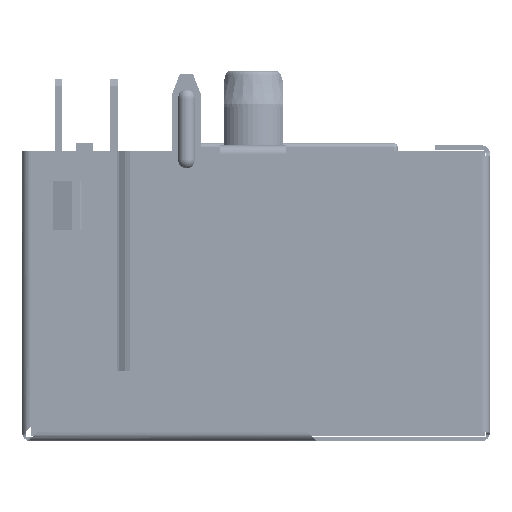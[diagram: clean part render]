
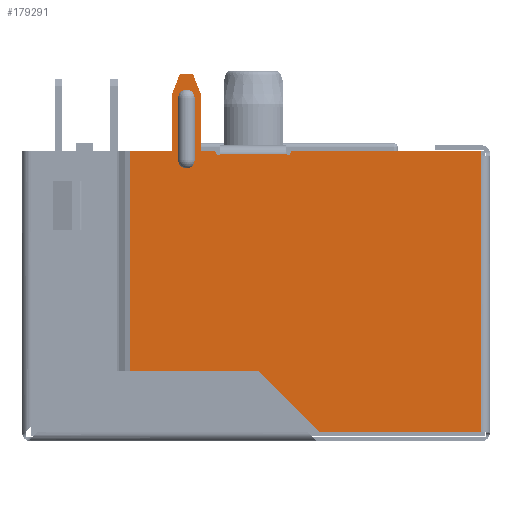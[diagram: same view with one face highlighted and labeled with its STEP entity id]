
A CAD part, left-side view. The second image highlights one B-rep face of the part: STEP entity #179291.
In plain terms, the highlighted planar face has unit normal (-1, 0, 0).
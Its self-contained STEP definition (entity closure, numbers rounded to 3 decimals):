
#158269=DIRECTION('',(0.,-0.362,-0.932));
#158270=VECTOR('',#158269,0.966);
#158271=CARTESIAN_POINT('',(-7.975,13.55,16.75));
#158272=LINE('',#158271,#158270);
#158273=CARTESIAN_POINT('',(-7.975,12.6,13.15));
#158274=DIRECTION('',(1.,0.,0.));
#158275=DIRECTION('',(0.,0.,1.));
#158276=AXIS2_PLACEMENT_3D('',#158273,#158274,#158275);
#158278=CARTESIAN_POINT('',(-7.975,12.4,13.15));
#158279=DIRECTION('',(-1.,0.,0.));
#158280=DIRECTION('',(0.,1.,0.));
#158281=AXIS2_PLACEMENT_3D('',#158278,#158279,#158280);
#158283=CARTESIAN_POINT('',(-7.975,9.2,13.15));
#158284=DIRECTION('',(-1.,0.,0.));
#158285=DIRECTION('',(0.,0.866,-0.5));
#158286=AXIS2_PLACEMENT_3D('',#158283,#158284,#158285);
#158288=CARTESIAN_POINT('',(-7.975,9.,13.15));
#158289=DIRECTION('',(1.,0.,0.));
#158290=DIRECTION('',(0.,1.,0.));
#158291=AXIS2_PLACEMENT_3D('',#158288,#158289,#158290);
#158293=DIRECTION('',(0.,0.707,0.707));
#158294=VECTOR('',#158293,3.96);
#158295=CARTESIAN_POINT('',(-7.975,7.75,0.4));
#158296=LINE('',#158295,#158294);
#158297=DIRECTION('',(0.,0.,1.));
#158298=VECTOR('',#158297,2.6);
#158299=CARTESIAN_POINT('',(-7.975,14.5,13.25));
#158300=LINE('',#158299,#158298);
#158301=DIRECTION('',(0.,-0.362,0.932));
#158302=VECTOR('',#158301,0.966);
#158303=CARTESIAN_POINT('',(-7.975,14.5,15.85));
#158304=LINE('',#158303,#158302);
#158309=DIRECTION('',(0.,-1.,0.));
#158310=VECTOR('',#158309,0.6);
#158311=CARTESIAN_POINT('',(-7.975,14.15,16.75));
#158312=LINE('',#158311,#158310);
#158321=DIRECTION('',(0.,0.,-1.));
#158322=VECTOR('',#158321,2.6);
#158323=CARTESIAN_POINT('',(-7.975,13.2,15.85));
#158324=LINE('',#158323,#158322);
#158333=DIRECTION('',(0.,-1.,0.));
#158334=VECTOR('',#158333,0.6);
#158335=CARTESIAN_POINT('',(-7.975,13.2,13.25));
#158336=LINE('',#158335,#158334);
#158451=DIRECTION('',(0.,1.,0.));
#158452=VECTOR('',#158451,3.027);
#158453=CARTESIAN_POINT('',(-7.975,9.287,13.1));
#158454=LINE('',#158453,#158452);
#158475=DIRECTION('',(0.,-1.,0.));
#158476=VECTOR('',#158475,8.6);
#158477=CARTESIAN_POINT('',(-7.975,9.,13.25));
#158478=LINE('',#158477,#158476);
#158479=DIRECTION('',(0.,0.,-1.));
#158480=VECTOR('',#158479,0.05);
#158481=CARTESIAN_POINT('',(-7.975,0.4,13.25));
#158482=LINE('',#158481,#158480);
#158608=DIRECTION('',(0.,-1.,0.));
#158609=VECTOR('',#158608,7.35);
#158610=CARTESIAN_POINT('',(-7.975,7.75,0.4));
#158611=LINE('',#158610,#158609);
#158621=DIRECTION('',(0.,-1.,0.));
#158622=VECTOR('',#158621,5.89);
#158623=CARTESIAN_POINT('',(-7.975,16.44,3.2));
#158624=LINE('',#158623,#158622);
#158665=DIRECTION('',(0.,-1.,0.));
#158666=VECTOR('',#158665,1.94);
#158667=CARTESIAN_POINT('',(-7.975,16.44,13.25));
#158668=LINE('',#158667,#158666);
#158697=DIRECTION('',(0.,0.,-1.));
#158698=VECTOR('',#158697,10.05);
#158699=CARTESIAN_POINT('',(-7.975,16.44,13.25));
#158700=LINE('',#158699,#158698);
#158920=DIRECTION('',(0.,0.,1.));
#158921=VECTOR('',#158920,12.8);
#158922=CARTESIAN_POINT('',(-7.975,0.4,0.4));
#158923=LINE('',#158922,#158921);
#160386=DIRECTION('',(0.,0.,1.));
#160387=VECTOR('',#160386,2.85);
#160388=CARTESIAN_POINT('',(-7.975,14.224,
12.82));
#160389=LINE('',#160388,#160387);
#160390=DIRECTION('',(0.,0.,-1.));
#160391=VECTOR('',#160390,2.85);
#160392=CARTESIAN_POINT('',(-7.975,13.476,
15.669));
#160393=LINE('',#160392,#160391);
#160394=CARTESIAN_POINT('',(-7.975,13.85,15.669));
#160395=DIRECTION('',(1.,0.,0.));
#160396=DIRECTION('',(0.,0.,1.));
#160397=AXIS2_PLACEMENT_3D('',#160394,#160395,#160396);
#160409=CARTESIAN_POINT('',(-7.975,13.85,15.669));
#160410=DIRECTION('',(1.,0.,0.));
#160411=DIRECTION('',(0.,1.,0.));
#160412=AXIS2_PLACEMENT_3D('',#160409,#160410,#160411);
#160414=CARTESIAN_POINT('',(-7.975,13.85,12.819));
#160415=DIRECTION('',(1.,0.,0.));
#160416=DIRECTION('',(0.,0.,-1.));
#160417=AXIS2_PLACEMENT_3D('',#160414,#160415,#160416);
#160429=CARTESIAN_POINT('',(-7.975,13.85,12.819));
#160430=DIRECTION('',(1.,0.,0.));
#160431=DIRECTION('',(0.,-1.,0.));
#160432=AXIS2_PLACEMENT_3D('',#160429,#160430,#160431);
#163044=CARTESIAN_POINT('',(-7.975,0.4,0.4));
#163045=VERTEX_POINT('',#163044);
#163046=CARTESIAN_POINT('',(-7.975,0.4,13.2));
#163047=VERTEX_POINT('',#163046);
#163157=CARTESIAN_POINT('',(-7.975,14.5,13.25));
#163158=CARTESIAN_POINT('',(-7.975,14.5,15.85));
#163159=VERTEX_POINT('',#163157);
#163160=VERTEX_POINT('',#163158);
#163161=CARTESIAN_POINT('',(-7.975,14.15,16.75));
#163162=CARTESIAN_POINT('',(-7.975,13.55,16.75));
#163163=VERTEX_POINT('',#163161);
#163164=VERTEX_POINT('',#163162);
#163165=CARTESIAN_POINT('',(-7.975,16.44,13.25));
#163166=VERTEX_POINT('',#163165);
#163167=CARTESIAN_POINT('',(-7.975,16.44,3.2));
#163168=VERTEX_POINT('',#163167);
#163169=CARTESIAN_POINT('',(-7.975,10.55,3.2));
#163170=VERTEX_POINT('',#163169);
#163171=CARTESIAN_POINT('',(-7.975,7.75,0.4));
#163172=VERTEX_POINT('',#163171);
#163173=CARTESIAN_POINT('',(-7.975,0.4,13.25));
#163174=VERTEX_POINT('',#163173);
#163175=CARTESIAN_POINT('',(-7.975,9.,13.25));
#163176=VERTEX_POINT('',#163175);
#163177=CARTESIAN_POINT('',(-7.975,9.1,13.15));
#163178=VERTEX_POINT('',#163177);
#163179=CARTESIAN_POINT('',(-7.975,9.287,13.1));
#163180=VERTEX_POINT('',#163179);
#163181=CARTESIAN_POINT('',(-7.975,12.313,13.1));
#163182=VERTEX_POINT('',#163181);
#163183=CARTESIAN_POINT('',(-7.975,12.5,13.15));
#163184=VERTEX_POINT('',#163183);
#163185=CARTESIAN_POINT('',(-7.975,12.6,13.25));
#163186=VERTEX_POINT('',#163185);
#163187=CARTESIAN_POINT('',(-7.975,13.2,13.25));
#163188=VERTEX_POINT('',#163187);
#163189=CARTESIAN_POINT('',(-7.975,13.2,15.85));
#163190=VERTEX_POINT('',#163189);
#163191=CARTESIAN_POINT('',(-7.975,14.224,
12.82));
#163192=CARTESIAN_POINT('',(-7.975,14.224,
15.669));
#163193=VERTEX_POINT('',#163191);
#163194=VERTEX_POINT('',#163192);
#163195=CARTESIAN_POINT('',(-7.975,13.85,16.043));
#163196=VERTEX_POINT('',#163195);
#163197=CARTESIAN_POINT('',(-7.975,13.476,15.669));
#163198=VERTEX_POINT('',#163197);
#163199=CARTESIAN_POINT('',(-7.975,13.476,
12.82));
#163200=VERTEX_POINT('',#163199);
#163201=CARTESIAN_POINT('',(-7.975,13.85,12.445));
#163202=VERTEX_POINT('',#163201);
#179234=CARTESIAN_POINT('',(-7.975,8.42,8.575));
#179235=DIRECTION('',(1.,0.,0.));
#179236=DIRECTION('',(0.,-1.,0.));
#179237=AXIS2_PLACEMENT_3D('',#179234,#179235,#179236);
#179238=PLANE('',#179237);
#179240=ORIENTED_EDGE('',*,*,#179239,.T.);
#179242=ORIENTED_EDGE('',*,*,#179241,.T.);
#179244=ORIENTED_EDGE('',*,*,#179243,.T.);
#179246=ORIENTED_EDGE('',*,*,#179245,.T.);
#179248=ORIENTED_EDGE('',*,*,#179247,.T.);
#179250=ORIENTED_EDGE('',*,*,#179249,.T.);
#179252=ORIENTED_EDGE('',*,*,#179251,.F.);
#179253=ORIENTED_EDGE('',*,*,#179166,.T.);
#179255=ORIENTED_EDGE('',*,*,#179254,.T.);
#179257=ORIENTED_EDGE('',*,*,#179256,.T.);
#179259=ORIENTED_EDGE('',*,*,#179258,.T.);
#179261=ORIENTED_EDGE('',*,*,#179260,.F.);
#179263=ORIENTED_EDGE('',*,*,#179262,.F.);
#179265=ORIENTED_EDGE('',*,*,#179264,.T.);
#179267=ORIENTED_EDGE('',*,*,#179266,.F.);
#179269=ORIENTED_EDGE('',*,*,#179268,.F.);
#179271=ORIENTED_EDGE('',*,*,#179270,.T.);
#179272=ORIENTED_EDGE('',*,*,#179224,.T.);
#179274=ORIENTED_EDGE('',*,*,#179273,.T.);
#179275=EDGE_LOOP('',(#179240,#179242,#179244,#179246,#179248,#179250,#179252,
#179253,#179255,#179257,#179259,#179261,#179263,#179265,#179267,#179269,#179271,
#179272,#179274));
#179276=FACE_OUTER_BOUND('',#179275,.F.);
#179278=ORIENTED_EDGE('',*,*,#179277,.F.);
#179280=ORIENTED_EDGE('',*,*,#179279,.F.);
#179282=ORIENTED_EDGE('',*,*,#179281,.F.);
#179284=ORIENTED_EDGE('',*,*,#179283,.F.);
#179286=ORIENTED_EDGE('',*,*,#179285,.F.);
#179288=ORIENTED_EDGE('',*,*,#179287,.F.);
#179289=EDGE_LOOP('',(#179278,#179280,#179282,#179284,#179286,#179288));
#179290=FACE_BOUND('',#179289,.F.);
#179291=ADVANCED_FACE('',(#179276,#179290),#179238,.F.);
#158277=CIRCLE('',#158276,0.1);
#158282=CIRCLE('',#158281,0.1);
#158287=CIRCLE('',#158286,0.1);
#158292=CIRCLE('',#158291,0.1);
#160398=CIRCLE('',#160397,0.374);
#160413=CIRCLE('',#160412,0.374);
#160418=CIRCLE('',#160417,0.374);
#160433=CIRCLE('',#160432,0.374);
#179166=EDGE_CURVE('',#163180,#163178,#158287,.T.);
#179224=EDGE_CURVE('',#163159,#163160,#158300,.T.);
#179239=EDGE_CURVE('',#163163,#163164,#158312,.T.);
#179241=EDGE_CURVE('',#163164,#163190,#158272,.T.);
#179243=EDGE_CURVE('',#163190,#163188,#158324,.T.);
#179245=EDGE_CURVE('',#163188,#163186,#158336,.T.);
#179247=EDGE_CURVE('',#163186,#163184,#158277,.T.);
#179249=EDGE_CURVE('',#163184,#163182,#158282,.T.);
#179251=EDGE_CURVE('',#163180,#163182,#158454,.T.);
#179254=EDGE_CURVE('',#163178,#163176,#158292,.T.);
#179256=EDGE_CURVE('',#163176,#163174,#158478,.T.);
#179258=EDGE_CURVE('',#163174,#163047,#158482,.T.);
#179260=EDGE_CURVE('',#163045,#163047,#158923,.T.);
#179262=EDGE_CURVE('',#163172,#163045,#158611,.T.);
#179264=EDGE_CURVE('',#163172,#163170,#158296,.T.);
#179266=EDGE_CURVE('',#163168,#163170,#158624,.T.);
#179268=EDGE_CURVE('',#163166,#163168,#158700,.T.);
#179270=EDGE_CURVE('',#163166,#163159,#158668,.T.);
#179273=EDGE_CURVE('',#163160,#163163,#158304,.T.);
#179277=EDGE_CURVE('',#163193,#163194,#160389,.T.);
#179279=EDGE_CURVE('',#163202,#163193,#160418,.T.);
#179281=EDGE_CURVE('',#163200,#163202,#160433,.T.);
#179283=EDGE_CURVE('',#163198,#163200,#160393,.T.);
#179285=EDGE_CURVE('',#163196,#163198,#160398,.T.);
#179287=EDGE_CURVE('',#163194,#163196,#160413,.T.);
